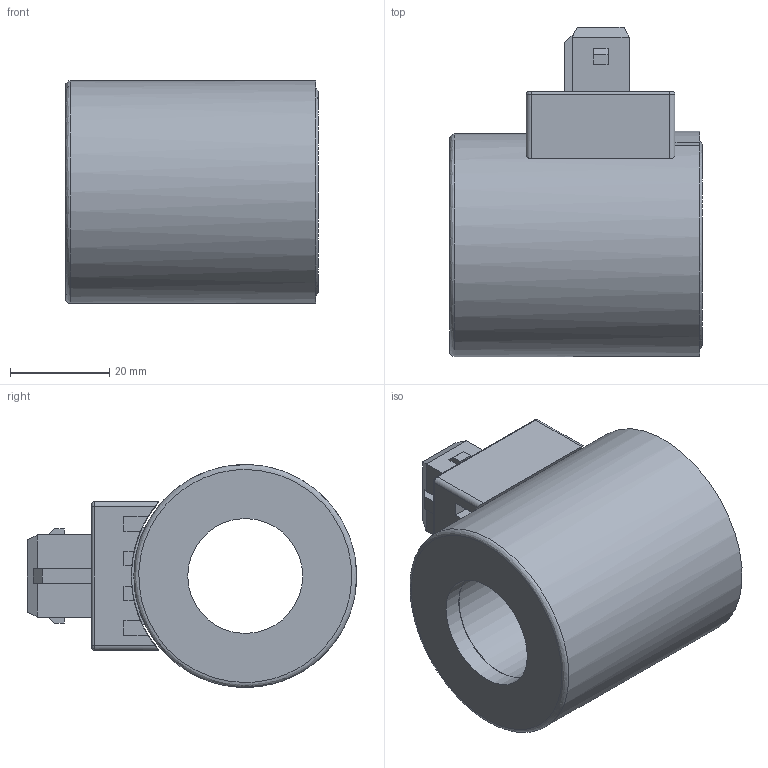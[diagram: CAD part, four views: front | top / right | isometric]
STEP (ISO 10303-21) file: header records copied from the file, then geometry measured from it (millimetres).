
FILE_DESCRIPTION (( 'STEP AP214' ), '1' );
FILE_NAME ('WJE45_23x50.STEP', '2018-03-09T09:02:06', ( '' ), ( '' ), 'SwSTEP 2.0', 'SolidWorks 2016', '' );
FILE_SCHEMA (( 'AUTOMOTIVE_DESIGN' ));
Length unit declared in the file: millimetre
Products named in the file (1): WJE45_23x50
Bounding box: 51.04 x 66.5 x 45 mm (x, y, z)
Volume: 69008.4 mm3; surface area: 18727.1 mm2
Topology: 1 solids, 1 shells, 108 faces, 266 edges, 170 vertices
Faces by surface type: plane 82, cylinder 20, bspline 4, torus 2
Full cylindrical faces by diameter (mm): 23.2 x2, 23.4 x1, 38 x1, 39.445 x1, 41.064 x1, 45 x1
Entity records: 13374 total; most frequent: CARTESIAN_POINT 10091, ORIENTED_EDGE 508, DIRECTION 507, EDGE_CURVE 254, LINE 195, VECTOR 195, VERTEX_POINT 167, AXIS2_PLACEMENT_3D 156
